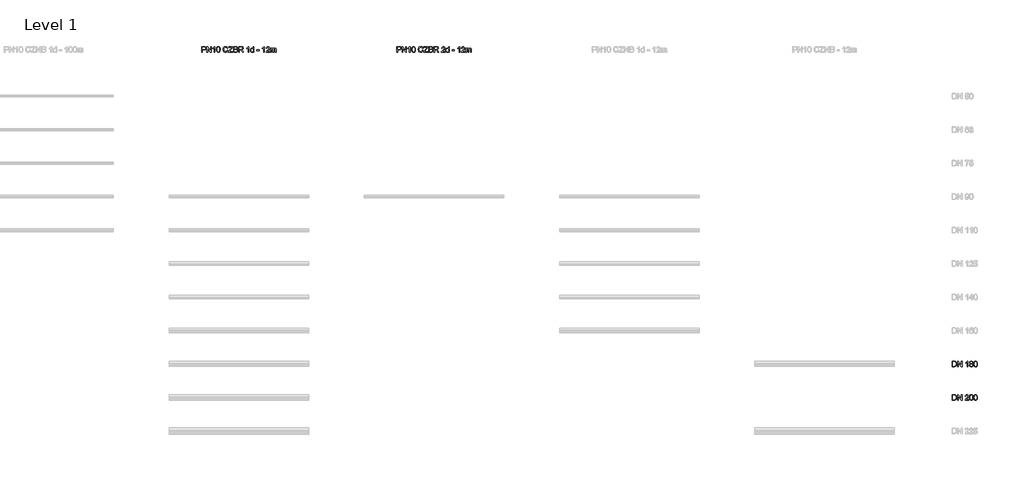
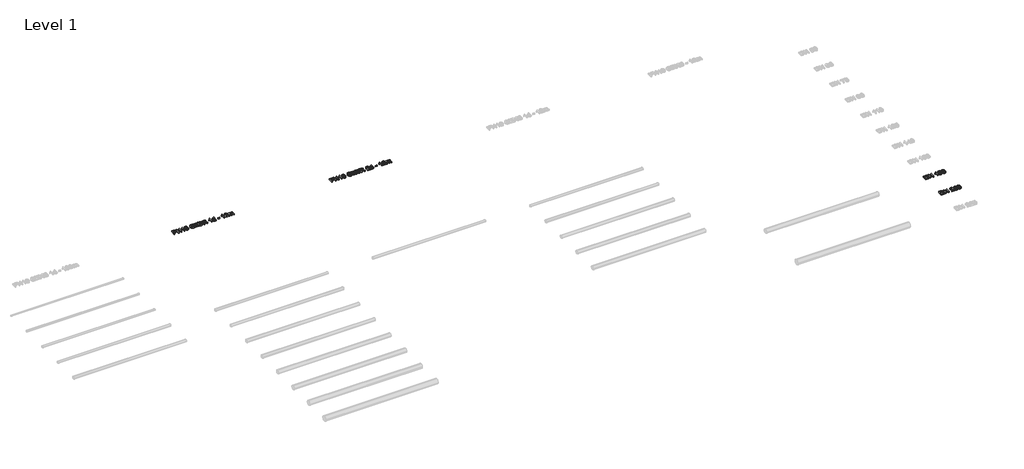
# One storey, part 7 of 13: 4 proxies.
"""IFC4 building model written with IfcOpenShell, lengths in millimetres."""

from ifc_helpers import new_model, si_unit, origin, origin_with_axes, place, context, project, spatial, polyline, outline, extrude, element, save

model = new_model("IFC4")

# Units and contexts
model_context = context("Model", 3, world=origin())
ifc_project = project(units=[si_unit("LENGTHUNIT", "METRE", prefix="MILLI")], contexts=[model_context])

# Site, building, storey
site = spatial("IfcSite", under=ifc_project)
building = spatial("IfcBuilding", under=site)
storey = spatial("IfcBuildingStorey", under=building, Name="Level 1", Elevation=0.0)

# Proxies
placement = place(None, origin())
element("IfcBuildingElementProxy", 1, Name="200mm Arial", ObjectType="200mm Arial", at=placement, inside=storey, context=model_context, shape_type="SweptSolid", body=[
    extrude(outline(polyline([(12636.2867653, -20838.0508707), (12636.2867653, -20637.1382504), (12710.7460811, -20637.1382504), (12740.7652519, -20639.0512367), (12765.1680909, -20648.4444903), (12774.0401784, -20656.7708862), (12780.9870167, -20667.8686597), (12785.4751771, -20680.9591274), (12786.9712305, -20695.2636056), (12782.9306599, -20718.9429434), (12770.8089482, -20738.673681), (12761.1014621, -20746.4421225), (12748.1412859, -20751.9910093), (12712.4628638, -20756.4301187), (12661.4008428, -20756.4301187), (12661.4008428, -20838.0508707), (12636.2867653, -20838.0508707)]), holes=[polyline([(12661.4008428, -20731.3160411), (12713.9343918, -20731.3160411), (12736.2035152, -20729.0106473), (12750.918795, -20722.0944658), (12759.1225635, -20710.9966923), (12761.857153, -20696.1465224), (12760.2446036, -20684.8648079), (12755.4069553, -20675.3489269), (12747.9450822, -20668.1874908), (12738.4598581, -20663.9691105), (12713.3457806, -20662.2523279), (12661.4008428, -20662.2523279), (12661.4008428, -20731.3160411)])]), origin_with_axes(), (0.0, 0.0, 1.0), 50.0),
    extrude(outline(polyline([(12821.5030871, -20838.0508707), (12821.5030871, -20637.1382504), (12848.3829983, -20637.1382504), (12953.3519942, -20796.3085269), (12953.3519942, -20637.1382504), (12978.4660717, -20637.1382504), (12978.4660717, -20838.0508707), (12951.5861606, -20838.0508707), (12846.6171647, -20678.8315431), (12846.6171647, -20838.0508707), (12821.5030871, -20838.0508707)])), origin_with_axes(), (0.0, 0.0, 1.0), 50.0),
    extrude(outline(polyline([(13107.1757191, -20838.0508707), (13082.0616416, -20838.0508707), (13082.0616416, -20681.4802935), (13058.2719392, -20698.4273908), (13031.8334865, -20711.1070569), (13031.8334865, -20687.3664054), (13068.6462115, -20663.8710087), (13082.1168239, -20650.2961631), (13090.9889113, -20637.1382504), (13107.1757191, -20637.1382504), (13107.1757191, -20838.0508707)])), origin_with_axes(), (0.0, 0.0, 1.0), 50.0),
    extrude(outline(polyline([(13166.8216533, -20739.2132413), (13168.6671946, -20707.0542235), (13174.2038186, -20681.4067171), (13183.3763431, -20661.8783145), (13196.1295856, -20648.0766083), (13212.5555166, -20639.8728399), (13232.7461068, -20637.1382504), (13248.2216761, -20638.7569311), (13262.0785646, -20643.6129735), (13273.6668474, -20651.516305), (13282.3365998, -20662.2768534), (13294.1088236, -20692.0017186), (13298.6705604, -20739.2132413), (13296.8434131, -20771.188318), (13291.3619714, -20796.7745108), (13282.2446293, -20816.3213075), (13269.5097809, -20830.178196), (13253.0470616, -20838.4371468), (13232.7461068, -20841.1901304), (13206.6510106, -20836.4076644), (13186.8344338, -20822.0602666), (13178.0788423, -20806.9311195), (13171.8248484, -20788.080233), (13166.8216533, -20739.2132413)]), holes=[polyline([(13191.9357308, -20739.1641904), (13194.8787868, -20778.6685853), (13203.7079547, -20801.5324513), (13216.8536046, -20812.4401524), (13232.7461068, -20816.0760528), (13248.638609, -20812.4278897), (13261.784259, -20801.4834003), (13270.6134269, -20778.6072716), (13273.5564828, -20739.1641904), (13270.7115287, -20700.5488436), (13262.1766664, -20677.507168), (13249.0555419, -20666.0660379), (13232.4518012, -20662.2523279), (13216.7309773, -20665.6123168), (13204.1003621, -20675.6922835), (13194.9768886, -20700.1686989), (13191.9357308, -20739.1641904)])]), origin_with_axes(), (0.0, 0.0, 1.0), 50.0),
    extrude(outline(polyline([(13549.8113357, -20766.6327127), (13574.9254133, -20773.1074358), (13563.3371304, -20802.3724485), (13545.1514971, -20823.7525238), (13521.2636929, -20836.8307287), (13492.5688973, -20841.1901304), (13463.4387746, -20837.8914551), (13440.3051285, -20827.9954295), (13422.5732163, -20811.8454099), (13409.6482956, -20789.7847529), (13401.7572268, -20763.8490722), (13399.1268705, -20736.0739816), (13402.1005833, -20706.778312), (13411.0217217, -20681.4802935), (13425.4243018, -20660.983135), (13444.8423398, -20646.0900456), (13467.8717527, -20637.0217544), (13493.1084575, -20633.9989907), (13520.6444249, -20637.9108025), (13543.410189, -20649.6462382), (13560.6945114, -20668.4817963), (13571.7861536, -20693.6939758), (13546.672076, -20699.6781895), (13537.9655355, -20681.3637975), (13526.0706843, -20668.8006274), (13510.8403697, -20661.534958), (13492.1274389, -20659.1130682), (13470.5572912, -20661.7986068), (13452.8376418, -20669.8552225), (13439.3915549, -20682.4367867), (13430.6420948, -20698.6971709), (13425.8412347, -20717.0790079), (13424.240948, -20736.0249307), (13426.1355403, -20759.2260218), (13431.8193171, -20779.2878533), (13441.5068763, -20795.4440043), (13455.4128158, -20806.9280539), (13472.0840015, -20813.7890531), (13490.0672997, -20816.0760528), (13511.0304421, -20812.9613186), (13528.4987055, -20803.6171159), (13541.687275, -20788.1415466), (13549.8113357, -20766.6327127)])), origin_with_axes(), (0.0, 0.0, 1.0), 50.0),
    extrude(outline(polyline([(13593.7609714, -20838.0508707), (13593.7609714, -20812.0048254), (13696.5226754, -20686.189183), (13716.0449466, -20662.2523279), (13606.3180102, -20662.2523279), (13606.3180102, -20637.1382504), (13747.5846963, -20637.1382504), (13747.5846963, -20662.2523279), (13635.1109077, -20799.938296), (13624.5159062, -20812.9367931), (13750.723956, -20812.9367931), (13750.723956, -20838.0508707), (13593.7609714, -20838.0508707)])), origin_with_axes(), (0.0, 0.0, 1.0), 50.0),
    extrude(outline(polyline([(13778.9772933, -20838.0508707), (13778.9772933, -20637.1382504), (13855.643901, -20637.1382504), (13876.7296707, -20638.6159097), (13893.19239, -20643.0488877), (13905.8107425, -20650.5475491), (13915.3634116, -20661.2222583), (13921.3782822, -20673.7792971), (13923.3832391, -20686.924947), (13921.6971133, -20699.0221333), (13916.6387358, -20710.3958183), (13908.1713186, -20720.3470263), (13896.2580733, -20728.1767814), (13910.4889752, -20735.6079977), (13921.0042689, -20746.9142377), (13927.4973861, -20761.3474747), (13929.6617585, -20778.1596818), (13923.7511211, -20805.1622203), (13909.1094177, -20824.3901859), (13887.2572272, -20834.5927799), (13855.0552899, -20838.0508707), (13778.9772933, -20838.0508707)]), holes=[polyline([(13804.0913708, -20718.7590024), (13849.9539929, -20718.7590024), (13876.7358021, -20716.6007613), (13892.8490335, -20707.3056096), (13898.2691616, -20690.9471235), (13893.2169155, -20674.564112), (13878.7468903, -20664.8765528), (13846.4713766, -20662.2523279), (13804.0913708, -20662.2523279), (13804.0913708, -20718.7590024)]), polyline([(13804.0913708, -20812.9367931), (13855.5948501, -20812.9367931), (13874.2342045, -20811.9557745), (13890.0040794, -20806.4865955), (13900.4519281, -20795.3275083), (13904.5476809, -20778.4049365), (13899.7406895, -20758.8826653), (13893.4437761, -20751.8254624), (13884.1670184, -20747.2330688), (13853.1423035, -20743.8730799), (13804.0913708, -20743.8730799), (13804.0913708, -20812.9367931)])]), origin_with_axes(), (0.0, 0.0, 1.0), 50.0),
    extrude(outline(polyline([(13964.1936151, -20838.0508707), (13964.1936151, -20637.1382504), (14050.7685113, -20637.1382504), (14074.0370475, -20638.4932824), (14090.9657506, -20642.5583784), (14103.3388484, -20650.0631711), (14112.9405685, -20661.7372931), (14119.1025919, -20676.2134496), (14121.1565997, -20692.1243459), (14117.7536912, -20711.9163972), (14107.5449659, -20728.3239342), (14090.2238553, -20740.3536755), (14065.4837911, -20747.0123396), (14079.7576125, -20757.7544938), (14100.1137496, -20783.6043354), (14133.6155366, -20838.0508707), (14104.4302317, -20838.0508707), (14078.2860845, -20796.4066288), (14059.4014754, -20768.8400046), (14046.1331982, -20755.816982), (14034.189296, -20751.0345161), (14019.621169, -20750.1515993), (13989.3076926, -20750.1515993), (13989.3076926, -20838.0508707), (13964.1936151, -20838.0508707)]), holes=[polyline([(13989.3076926, -20725.0375217), (14045.5200615, -20725.0375217), (14074.1903316, -20721.4813291), (14083.6203735, -20716.8582787), (14090.4752413, -20710.1015127), (14096.0425222, -20693.0563136), (14093.3876404, -20680.8058432), (14085.4229952, -20670.934343), (14071.7193909, -20664.4228317), (14051.8476318, -20662.2523279), (13989.3076926, -20662.2523279), (13989.3076926, -20725.0375217)])]), origin_with_axes(), (0.0, 0.0, 1.0), 50.0),
    extrude(outline(polyline([(14362.879596, -20812.9367931), (14362.879596, -20838.0508707), (14231.0306889, -20838.0508707), (14233.7284902, -20820.7358914), (14248.9833303, -20794.0767095), (14280.4249781, -20764.9649809), (14323.7860026, -20723.1245354), (14331.9161947, -20708.7035612), (14334.6262588, -20694.6749944), (14332.0694789, -20682.0995615), (14324.3991393, -20671.6455815), (14312.6085214, -20664.6006413), (14297.6909065, -20662.2523279), (14282.0252648, -20664.545459), (14269.8545022, -20671.4248523), (14262.0002216, -20682.3509476), (14259.2840262, -20696.7841845), (14234.1699486, -20693.6449248), (14240.2583956, -20669.3524504), (14253.4224397, -20651.6082755), (14272.9753677, -20640.7557566), (14298.2304667, -20637.1382504), (14323.6695067, -20641.1604268), (14343.1856465, -20653.2269563), (14355.6016639, -20671.253174), (14359.7403363, -20693.1544155), (14355.2767014, -20716.9686433), (14340.4387943, -20741.5922115), (14304.4599352, -20776.0014408), (14275.5689358, -20800.1590252), (14264.2381704, -20812.9367931), (14362.879596, -20812.9367931)])), origin_with_axes(), (0.0, 0.0, 1.0), 50.0),
    extrude(outline(polyline([(14485.310724, -20838.0508707), (14485.310724, -20814.3592702), (14477.7967342, -20826.0977715), (14468.6947205, -20834.4824153), (14458.0046829, -20839.5132016), (14445.7266213, -20841.1901304), (14429.4907626, -20838.7621092), (14414.62833, -20831.4780457), (14402.0467658, -20819.8468433), (14392.6535121, -20804.3774054), (14386.8041884, -20785.6951314), (14384.8544138, -20764.4254207), (14386.6509043, -20743.4193588), (14392.0403755, -20724.4489105), (14401.0166962, -20708.5931966), (14413.5737349, -20696.9313373), (14428.76113, -20689.7576384), (14445.6285194, -20687.3664054), (14457.9157781, -20689.0770567), (14468.7805597, -20694.2090105), (14485.310724, -20711.9899736), (14485.310724, -20637.1382504), (14510.4248015, -20637.1382504), (14510.4248015, -20838.0508707), (14485.310724, -20838.0508707)]), holes=[polyline([(14409.9684914, -20764.3273188), (14412.8011827, -20787.044032), (14421.2992568, -20803.200183), (14433.6478291, -20812.8570854), (14448.0320151, -20816.0760528), (14462.4100698, -20813.0042382), (14474.4459424, -20803.7887942), (14482.5945286, -20788.2580426), (14485.310724, -20766.2403052), (14482.5454777, -20742.16856), (14474.2497387, -20725.4789801), (14461.9072977, -20715.7301073), (14447.0019456, -20712.480483), (14432.4706068, -20715.6013486), (14420.5634928, -20724.9639453), (14412.6172417, -20741.0465199), (14409.9684914, -20764.3273188)])]), origin_with_axes(), (0.0, 0.0, 1.0), 50.0),
    extrude(outline(polyline([(14614.0203714, -20778.4049365), (14614.0203714, -20753.290859), (14692.5018637, -20753.290859), (14692.5018637, -20778.4049365), (14614.0203714, -20778.4049365)])), origin_with_axes(), (0.0, 0.0, 1.0), 50.0),
    extrude(outline(polyline([(14887.1359646, -20838.0508707), (14862.0218871, -20838.0508707), (14862.0218871, -20681.4802935), (14838.2321847, -20698.4273908), (14811.793732, -20711.1070569), (14811.793732, -20687.3664054), (14848.606457, -20663.8710087), (14862.0770694, -20650.2961631), (14870.9491568, -20637.1382504), (14887.1359646, -20637.1382504), (14887.1359646, -20838.0508707)])), origin_with_axes(), (0.0, 0.0, 1.0), 50.0),
    extrude(outline(polyline([(15075.4915461, -20812.9367931), (15075.4915461, -20838.0508707), (14943.6426391, -20838.0508707), (14946.3404403, -20820.7358914), (14961.5952804, -20794.0767095), (14993.0369283, -20764.9649809), (15036.3979528, -20723.1245354), (15044.5281449, -20708.7035612), (15047.2382089, -20694.6749944), (15044.681429, -20682.0995615), (15037.0110894, -20671.6455815), (15025.2204715, -20664.6006413), (15010.3028566, -20662.2523279), (14994.6372149, -20664.545459), (14982.4664523, -20671.4248523), (14974.6121717, -20682.3509476), (14971.8959763, -20696.7841845), (14946.7818987, -20693.6449248), (14952.8703458, -20669.3524504), (14966.0343898, -20651.6082755), (14985.5873179, -20640.7557566), (15010.8424168, -20637.1382504), (15036.2814568, -20641.1604268), (15055.7975966, -20653.2269563), (15068.213614, -20671.253174), (15072.3522864, -20693.1544155), (15067.8886516, -20716.9686433), (15053.0507444, -20741.5922115), (15017.0718853, -20776.0014408), (14988.1808859, -20800.1590252), (14976.8501205, -20812.9367931), (15075.4915461, -20812.9367931)])), origin_with_axes(), (0.0, 0.0, 1.0), 50.0),
    extrude(outline(polyline([(15106.884143, -20838.0508707), (15106.884143, -20690.5056651), (15131.9982206, -20690.5056651), (15131.9982206, -20714.7858768), (15139.5520642, -20703.632921), (15149.2641489, -20694.8957236), (15160.8033808, -20689.248735), (15173.8386662, -20687.3664054), (15187.8059192, -20689.2855232), (15199.0017946, -20695.0428764), (15207.3649787, -20704.2583204), (15212.8341577, -20716.5517104), (15221.988288, -20703.7831395), (15232.4300053, -20694.6627317), (15244.1593095, -20689.190487), (15257.1762008, -20687.3664054), (15276.0546785, -20690.4014319), (15290.0158002, -20699.5065113), (15298.642633, -20714.9268982), (15301.518244, -20736.9078475), (15301.518244, -20838.0508707), (15276.4041664, -20838.0508707), (15276.4041664, -20747.6990526), (15274.0742471, -20726.7297789), (15265.6374867, -20716.4045576), (15251.2900889, -20712.480483), (15237.6845864, -20714.9943433), (15226.5929443, -20722.5359242), (15219.2169103, -20735.6202605), (15216.7582323, -20754.762387), (15216.7582323, -20838.0508707), (15191.6441547, -20838.0508707), (15191.6441547, -20744.9031495), (15190.1910209, -20730.7029045), (15185.8316192, -20720.5738869), (15178.1612796, -20714.5038339), (15166.7753319, -20712.480483), (15148.1850284, -20717.8760856), (15140.8273885, -20724.5224869), (15135.8241933, -20733.6704859), (15131.9982206, -20763.6406058), (15131.9982206, -20838.0508707), (15106.884143, -20838.0508707)])), origin_with_axes(), (0.0, 0.0, 1.0), 50.0),
])
element("IfcBuildingElementProxy", 2, Name="200mm Arial", ObjectType="200mm Arial", at=placement, inside=storey, context=model_context, shape_type="SweptSolid", body=[
    extrude(outline(polyline([(32539.3076926, -33313.949573), (32539.3076926, -33113.0369527), (32608.6166605, -33113.0369527), (32644.4728923, -33115.9309577), (32660.4880218, -33121.5105013), (32674.0015538, -33130.302881), (32687.8952305, -33145.606772), (32697.7912562, -33164.6385338), (32703.7141563, -33187.0302846), (32705.6884563, -33212.4141423), (32700.3419047, -33252.9547382), (32686.6076435, -33282.2136195), (32668.2625947, -33300.436041), (32644.2521631, -33310.5160077), (32611.9521239, -33313.949573), (32539.3076926, -33313.949573)]), holes=[polyline([(32564.4217702, -33288.8354954), (32608.8619152, -33288.8354954), (32641.1864798, -33285.2057264), (32659.8258342, -33274.9540815), (32668.5507689, -33264.0831685), (32675.1051998, -33250.0116822), (32679.207084, -33232.6783089), (32680.5743788, -33212.0217348), (32677.8949716, -33184.6513144), (32669.85675, -33164.4423301), (32657.9802929, -33150.5609162), (32643.7861793, -33142.1732067), (32608.1752021, -33138.1510302), (32564.4217702, -33138.1510302), (32564.4217702, -33288.8354954)])]), origin_with_axes(), (0.0, 0.0, 1.0), 50.0),
    extrude(outline(polyline([(32740.2203129, -33313.949573), (32740.2203129, -33113.0369527), (32767.100224, -33113.0369527), (32872.06922, -33272.2072292), (32872.06922, -33113.0369527), (32897.1832975, -33113.0369527), (32897.1832975, -33313.949573), (32870.3033864, -33313.949573), (32765.3343905, -33154.7302454), (32765.3343905, -33313.949573), (32740.2203129, -33313.949573)])), origin_with_axes(), (0.0, 0.0, 1.0), 50.0),
    extrude(outline(polyline([(33138.9062938, -33288.8354954), (33138.9062938, -33313.949573), (33007.0573868, -33313.949573), (33009.7551881, -33296.6345937), (33025.0100281, -33269.9754118), (33056.451676, -33240.8636832), (33099.8127005, -33199.0232377), (33107.9428926, -33184.6022634), (33110.6529566, -33170.5736967), (33108.0961767, -33157.9982638), (33100.4258371, -33147.5442838), (33088.6352192, -33140.4993436), (33073.7176043, -33138.1510302), (33058.0519627, -33140.4441613), (33045.8812, -33147.3235546), (33038.0269194, -33158.2496499), (33035.310724, -33172.6828868), (33010.1966465, -33169.5436271), (33016.2850935, -33145.2511527), (33029.4491375, -33127.5069778), (33049.0020656, -33116.6544589), (33074.2571645, -33113.0369527), (33099.6962045, -33117.0591291), (33119.2123444, -33129.1256586), (33131.6283617, -33147.1518763), (33135.7670341, -33169.0531178), (33131.3033993, -33192.8673456), (33116.4654921, -33217.4909138), (33080.486633, -33251.9001431), (33051.5956336, -33276.0577275), (33040.2648682, -33288.8354954), (33138.9062938, -33288.8354954)])), origin_with_axes(), (0.0, 0.0, 1.0), 50.0),
    extrude(outline(polyline([(33164.0203714, -33215.1119436), (33165.8659127, -33182.9529258), (33171.4025367, -33157.3054194), (33180.5750612, -33137.7770168), (33193.3283037, -33123.9753106), (33209.7542347, -33115.7715422), (33229.9448249, -33113.0369527), (33245.4203942, -33114.6556334), (33259.2772827, -33119.5116758), (33270.8655655, -33127.4150073), (33279.5353179, -33138.1755557), (33291.3075417, -33167.9004209), (33295.8692784, -33215.1119436), (33294.0421312, -33247.0870203), (33288.5606895, -33272.6732131), (33279.4433474, -33292.2200098), (33266.708499, -33306.0768983), (33250.2457797, -33314.335849), (33229.9448249, -33317.0888326), (33203.8497287, -33312.3063667), (33184.0331519, -33297.9589689), (33175.2775604, -33282.8298218), (33169.0235665, -33263.9789353), (33164.0203714, -33215.1119436)]), holes=[polyline([(33189.1344489, -33215.0628927), (33192.0775049, -33254.5672876), (33200.9066728, -33277.4311536), (33214.0523227, -33288.3388547), (33229.9448249, -33291.9747551), (33245.8373271, -33288.326592), (33258.9829771, -33277.3821026), (33267.8121449, -33254.5059739), (33270.7552009, -33215.0628927), (33267.9102468, -33176.4475459), (33259.3753845, -33153.4058703), (33246.25426, -33141.9647402), (33229.6505193, -33138.1510302), (33213.9296954, -33141.5110191), (33201.2990802, -33151.5909857), (33192.1756067, -33176.0674012), (33189.1344489, -33215.0628927)])]), origin_with_axes(), (0.0, 0.0, 1.0), 50.0),
    extrude(outline(polyline([(33317.8440963, -33215.1119436), (33319.6896376, -33182.9529258), (33325.2262617, -33157.3054194), (33334.3987861, -33137.7770168), (33347.1520286, -33123.9753106), (33363.5779597, -33115.7715422), (33383.7685498, -33113.0369527), (33399.2441191, -33114.6556334), (33413.1010076, -33119.5116758), (33424.6892904, -33127.4150073), (33433.3590428, -33138.1755557), (33445.1312666, -33167.9004209), (33449.6930034, -33215.1119436), (33447.8658561, -33247.0870203), (33442.3844144, -33272.6732131), (33433.2670723, -33292.2200098), (33420.5322239, -33306.0768983), (33404.0695046, -33314.335849), (33383.7685498, -33317.0888326), (33357.6734536, -33312.3063667), (33337.8568768, -33297.9589689), (33329.1012853, -33282.8298218), (33322.8472914, -33263.9789353), (33317.8440963, -33215.1119436)]), holes=[polyline([(33342.9581738, -33215.0628927), (33345.9012298, -33254.5672876), (33354.7303977, -33277.4311536), (33367.8760476, -33288.3388547), (33383.7685498, -33291.9747551), (33399.661052, -33288.326592), (33412.806702, -33277.3821026), (33421.6358699, -33254.5059739), (33424.5789258, -33215.0628927), (33421.7339717, -33176.4475459), (33413.1991094, -33153.4058703), (33400.0779849, -33141.9647402), (33383.4742442, -33138.1510302), (33367.7534203, -33141.5110191), (33355.1228051, -33151.5909857), (33345.9993317, -33176.0674012), (33342.9581738, -33215.0628927)])]), origin_with_axes(), (0.0, 0.0, 1.0), 50.0),
])
element("IfcBuildingElementProxy", 3, Name="200mm Arial", ObjectType="200mm Arial", at=placement, inside=storey, context=model_context, shape_type="SweptSolid", body=[
    extrude(outline(polyline([(32539.3076926, -32113.949573), (32539.3076926, -31913.0369527), (32608.6166605, -31913.0369527), (32644.4728923, -31915.9309577), (32660.4880218, -31921.5105013), (32674.0015538, -31930.302881), (32687.8952305, -31945.606772), (32697.7912562, -31964.6385338), (32703.7141563, -31987.0302846), (32705.6884563, -32012.4141423), (32700.3419047, -32052.9547382), (32686.6076435, -32082.2136195), (32668.2625947, -32100.436041), (32644.2521631, -32110.5160077), (32611.9521239, -32113.949573), (32539.3076926, -32113.949573)]), holes=[polyline([(32564.4217702, -32088.8354954), (32608.8619152, -32088.8354954), (32641.1864798, -32085.2057264), (32659.8258342, -32074.9540815), (32668.5507689, -32064.0831685), (32675.1051998, -32050.0116822), (32679.207084, -32032.6783089), (32680.5743788, -32012.0217348), (32677.8949716, -31984.6513144), (32669.85675, -31964.4423301), (32657.9802929, -31950.5609162), (32643.7861793, -31942.1732067), (32608.1752021, -31938.1510302), (32564.4217702, -31938.1510302), (32564.4217702, -32088.8354954)])]), origin_with_axes(), (0.0, 0.0, 1.0), 50.0),
    extrude(outline(polyline([(32740.2203129, -32113.949573), (32740.2203129, -31913.0369527), (32767.100224, -31913.0369527), (32872.06922, -32072.2072292), (32872.06922, -31913.0369527), (32897.1832975, -31913.0369527), (32897.1832975, -32113.949573), (32870.3033864, -32113.949573), (32765.3343905, -31954.7302454), (32765.3343905, -32113.949573), (32740.2203129, -32113.949573)])), origin_with_axes(), (0.0, 0.0, 1.0), 50.0),
    extrude(outline(polyline([(33104.3744372, -32113.949573), (33079.2603597, -32113.949573), (33079.2603597, -31957.3789958), (33055.4706573, -31974.3260931), (33029.0322046, -31987.0057592), (33029.0322046, -31963.2651077), (33065.8449296, -31939.769711), (33079.315542, -31926.1948653), (33088.1876294, -31913.0369527), (33104.3744372, -31913.0369527), (33104.3744372, -32113.949573)])), origin_with_axes(), (0.0, 0.0, 1.0), 50.0),
    extrude(outline(polyline([(33200.6123672, -32003.2906688), (33187.1662802, -31996.6687929), (33177.7301071, -31987.6924722), (33172.1566948, -31976.5456478), (33170.2988908, -31963.4122605), (33174.3455927, -31943.7796247), (33186.4856985, -31927.5560287), (33205.3580449, -31916.6667217), (33229.6014684, -31913.0369527), (33253.9920447, -31916.7525608), (33273.1096457, -31927.8993853), (33285.4704807, -31944.3804986), (33289.5907591, -31964.0989736), (33287.7574804, -31976.8092965), (33282.2576446, -31987.7660486), (33273.0299379, -31996.687187), (33260.0130466, -32003.2906688), (33275.4702218, -32011.255314), (33286.7212795, -32022.9846183), (33293.5822787, -32037.9144959), (33295.8692784, -32055.4808612), (33291.3320672, -32079.4912927), (33277.7204333, -32099.332395), (33256.7021087, -32112.6497232), (33229.9448249, -32117.0888326), (33203.1875411, -32112.6313291), (33182.1692165, -32099.2588186), (33168.5575826, -32079.227644), (33164.0203714, -32054.7941481), (33166.3993416, -32036.5472012), (33173.5362523, -32021.5376158), (33185.0632215, -32010.2804267), (33200.6123672, -32003.2906688)]), holes=[polyline([(33195.4129683, -31964.1480245), (33197.6386544, -31975.110908), (33204.3157126, -31983.8664995), (33215.2479392, -31989.6054586), (33230.2391305, -31991.518445), (33244.8808339, -31989.6177213), (33255.6475136, -31983.9155504), (33262.2693896, -31975.4542645), (33264.4766815, -31965.276196), (33262.1958132, -31954.7118513), (33255.353208, -31945.974654), (33244.4393755, -31940.1069361), (33229.9448249, -31938.1510302), (33215.3583038, -31940.0640166), (33204.4628654, -31945.8029757), (33197.6754426, -31954.2152106), (33195.4129683, -31964.1480245)]), polyline([(33189.1344489, -32053.9112313), (33193.3283037, -32072.8203659), (33199.1347078, -32080.9321639), (33208.1662108, -32086.97156), (33230.1410286, -32091.9747551), (33247.2352787, -32089.3443988), (33260.0620976, -32081.45333), (33268.0819251, -32069.5032966), (33270.7552009, -32054.6960463), (33267.9960859, -32039.6374099), (33259.7187411, -32027.4237277), (33246.5976166, -32019.3303238), (33229.3071628, -32016.6325225), (33212.452036, -32019.2935356), (33199.7539758, -32027.2765749), (33191.7893306, -32039.2572652), (33189.1344489, -32053.9112313)])]), origin_with_axes(), (0.0, 0.0, 1.0), 50.0),
    extrude(outline(polyline([(33317.8440963, -32015.1119436), (33319.6896376, -31982.9529258), (33325.2262617, -31957.3054194), (33334.3987861, -31937.7770168), (33347.1520286, -31923.9753106), (33363.5779597, -31915.7715422), (33383.7685498, -31913.0369527), (33399.2441191, -31914.6556334), (33413.1010076, -31919.5116758), (33424.6892904, -31927.4150073), (33433.3590428, -31938.1755557), (33445.1312666, -31967.9004209), (33449.6930034, -32015.1119436), (33447.8658561, -32047.0870203), (33442.3844144, -32072.6732131), (33433.2670723, -32092.2200098), (33420.5322239, -32106.0768983), (33404.0695046, -32114.335849), (33383.7685498, -32117.0888326), (33357.6734536, -32112.3063667), (33337.8568768, -32097.9589689), (33329.1012853, -32082.8298218), (33322.8472914, -32063.9789353), (33317.8440963, -32015.1119436)]), holes=[polyline([(33342.9581738, -32015.0628927), (33345.9012298, -32054.5672876), (33354.7303977, -32077.4311536), (33367.8760476, -32088.3388547), (33383.7685498, -32091.9747551), (33399.661052, -32088.326592), (33412.806702, -32077.3821026), (33421.6358699, -32054.5059739), (33424.5789258, -32015.0628927), (33421.7339717, -31976.4475459), (33413.1991094, -31953.4058703), (33400.0779849, -31941.9647402), (33383.4742442, -31938.1510302), (33367.7534203, -31941.5110191), (33355.1228051, -31951.5909857), (33345.9993317, -31976.0674012), (33342.9581738, -32015.0628927)])]), origin_with_axes(), (0.0, 0.0, 1.0), 50.0),
])
element("IfcBuildingElementProxy", 4, Name="200mm Arial", ObjectType="200mm Arial", at=placement, inside=storey, context=model_context, shape_type="SweptSolid", body=[
    extrude(outline(polyline([(5636.2867653, -20838.0508707), (5636.2867653, -20637.1382504), (5710.7460811, -20637.1382504), (5740.7652519, -20639.0512367), (5765.1680909, -20648.4444903), (5774.0401784, -20656.7708862), (5780.9870167, -20667.8686597), (5785.4751771, -20680.9591274), (5786.9712305, -20695.2636056), (5782.9306599, -20718.9429434), (5770.8089482, -20738.673681), (5761.1014621, -20746.4421225), (5748.1412859, -20751.9910093), (5712.4628638, -20756.4301187), (5661.4008428, -20756.4301187), (5661.4008428, -20838.0508707), (5636.2867653, -20838.0508707)]), holes=[polyline([(5661.4008428, -20731.3160411), (5713.9343918, -20731.3160411), (5736.2035152, -20729.0106473), (5750.918795, -20722.0944658), (5759.1225635, -20710.9966923), (5761.857153, -20696.1465224), (5760.2446036, -20684.8648079), (5755.4069553, -20675.3489269), (5747.9450822, -20668.1874908), (5738.4598581, -20663.9691105), (5713.3457806, -20662.2523279), (5661.4008428, -20662.2523279), (5661.4008428, -20731.3160411)])]), origin_with_axes(), (0.0, 0.0, 1.0), 50.0),
    extrude(outline(polyline([(5821.5030871, -20838.0508707), (5821.5030871, -20637.1382504), (5848.3829983, -20637.1382504), (5953.3519942, -20796.3085269), (5953.3519942, -20637.1382504), (5978.4660717, -20637.1382504), (5978.4660717, -20838.0508707), (5951.5861606, -20838.0508707), (5846.6171647, -20678.8315431), (5846.6171647, -20838.0508707), (5821.5030871, -20838.0508707)])), origin_with_axes(), (0.0, 0.0, 1.0), 50.0),
    extrude(outline(polyline([(6107.1757191, -20838.0508707), (6082.0616416, -20838.0508707), (6082.0616416, -20681.4802935), (6058.2719392, -20698.4273908), (6031.8334865, -20711.1070569), (6031.8334865, -20687.3664054), (6068.6462115, -20663.8710087), (6082.1168239, -20650.2961631), (6090.9889113, -20637.1382504), (6107.1757191, -20637.1382504), (6107.1757191, -20838.0508707)])), origin_with_axes(), (0.0, 0.0, 1.0), 50.0),
    extrude(outline(polyline([(6166.8216533, -20739.2132413), (6168.6671946, -20707.0542235), (6174.2038186, -20681.4067171), (6183.3763431, -20661.8783145), (6196.1295856, -20648.0766083), (6212.5555166, -20639.8728399), (6232.7461068, -20637.1382504), (6248.2216761, -20638.7569311), (6262.0785646, -20643.6129735), (6273.6668474, -20651.516305), (6282.3365998, -20662.2768534), (6294.1088236, -20692.0017186), (6298.6705604, -20739.2132413), (6296.8434131, -20771.188318), (6291.3619714, -20796.7745108), (6282.2446293, -20816.3213075), (6269.5097809, -20830.178196), (6253.0470616, -20838.4371468), (6232.7461068, -20841.1901304), (6206.6510106, -20836.4076644), (6186.8344338, -20822.0602666), (6178.0788423, -20806.9311195), (6171.8248484, -20788.080233), (6166.8216533, -20739.2132413)]), holes=[polyline([(6191.9357308, -20739.1641904), (6194.8787868, -20778.6685853), (6203.7079547, -20801.5324513), (6216.8536046, -20812.4401524), (6232.7461068, -20816.0760528), (6248.638609, -20812.4278897), (6261.784259, -20801.4834003), (6270.6134269, -20778.6072716), (6273.5564828, -20739.1641904), (6270.7115287, -20700.5488436), (6262.1766664, -20677.507168), (6249.0555419, -20666.0660379), (6232.4518012, -20662.2523279), (6216.7309773, -20665.6123168), (6204.1003621, -20675.6922835), (6194.9768886, -20700.1686989), (6191.9357308, -20739.1641904)])]), origin_with_axes(), (0.0, 0.0, 1.0), 50.0),
    extrude(outline(polyline([(6549.8113357, -20766.6327127), (6574.9254133, -20773.1074358), (6563.3371304, -20802.3724485), (6545.1514971, -20823.7525238), (6521.2636929, -20836.8307287), (6492.5688973, -20841.1901304), (6463.4387746, -20837.8914551), (6440.3051285, -20827.9954295), (6422.5732163, -20811.8454099), (6409.6482956, -20789.7847529), (6401.7572268, -20763.8490722), (6399.1268705, -20736.0739816), (6402.1005833, -20706.778312), (6411.0217217, -20681.4802935), (6425.4243018, -20660.983135), (6444.8423398, -20646.0900456), (6467.8717527, -20637.0217544), (6493.1084575, -20633.9989907), (6520.6444249, -20637.9108025), (6543.410189, -20649.6462382), (6560.6945114, -20668.4817963), (6571.7861536, -20693.6939758), (6546.672076, -20699.6781895), (6537.9655355, -20681.3637975), (6526.0706843, -20668.8006274), (6510.8403697, -20661.534958), (6492.1274389, -20659.1130682), (6470.5572912, -20661.7986068), (6452.8376418, -20669.8552225), (6439.3915549, -20682.4367867), (6430.6420948, -20698.6971709), (6425.8412347, -20717.0790079), (6424.240948, -20736.0249307), (6426.1355403, -20759.2260218), (6431.8193171, -20779.2878533), (6441.5068763, -20795.4440043), (6455.4128158, -20806.9280539), (6472.0840015, -20813.7890531), (6490.0672997, -20816.0760528), (6511.0304421, -20812.9613186), (6528.4987055, -20803.6171159), (6541.687275, -20788.1415466), (6549.8113357, -20766.6327127)])), origin_with_axes(), (0.0, 0.0, 1.0), 50.0),
    extrude(outline(polyline([(6593.7609714, -20838.0508707), (6593.7609714, -20812.0048254), (6696.5226754, -20686.189183), (6716.0449466, -20662.2523279), (6606.3180102, -20662.2523279), (6606.3180102, -20637.1382504), (6747.5846963, -20637.1382504), (6747.5846963, -20662.2523279), (6635.1109077, -20799.938296), (6624.5159062, -20812.9367931), (6750.723956, -20812.9367931), (6750.723956, -20838.0508707), (6593.7609714, -20838.0508707)])), origin_with_axes(), (0.0, 0.0, 1.0), 50.0),
    extrude(outline(polyline([(6778.9772933, -20838.0508707), (6778.9772933, -20637.1382504), (6855.643901, -20637.1382504), (6876.7296707, -20638.6159097), (6893.19239, -20643.0488877), (6905.8107425, -20650.5475491), (6915.3634116, -20661.2222583), (6921.3782822, -20673.7792971), (6923.3832391, -20686.924947), (6921.6971133, -20699.0221333), (6916.6387358, -20710.3958183), (6908.1713186, -20720.3470263), (6896.2580733, -20728.1767814), (6910.4889752, -20735.6079977), (6921.0042689, -20746.9142377), (6927.4973861, -20761.3474747), (6929.6617585, -20778.1596818), (6923.7511211, -20805.1622203), (6909.1094177, -20824.3901859), (6887.2572272, -20834.5927799), (6855.0552899, -20838.0508707), (6778.9772933, -20838.0508707)]), holes=[polyline([(6804.0913708, -20718.7590024), (6849.9539929, -20718.7590024), (6876.7358021, -20716.6007613), (6892.8490335, -20707.3056096), (6898.2691616, -20690.9471235), (6893.2169155, -20674.564112), (6878.7468903, -20664.8765528), (6846.4713766, -20662.2523279), (6804.0913708, -20662.2523279), (6804.0913708, -20718.7590024)]), polyline([(6804.0913708, -20812.9367931), (6855.5948501, -20812.9367931), (6874.2342045, -20811.9557745), (6890.0040794, -20806.4865955), (6900.4519281, -20795.3275083), (6904.5476809, -20778.4049365), (6899.7406895, -20758.8826653), (6893.4437761, -20751.8254624), (6884.1670184, -20747.2330688), (6853.1423035, -20743.8730799), (6804.0913708, -20743.8730799), (6804.0913708, -20812.9367931)])]), origin_with_axes(), (0.0, 0.0, 1.0), 50.0),
    extrude(outline(polyline([(6964.1936151, -20838.0508707), (6964.1936151, -20637.1382504), (7050.7685113, -20637.1382504), (7074.0370475, -20638.4932824), (7090.9657506, -20642.5583784), (7103.3388484, -20650.0631711), (7112.9405685, -20661.7372931), (7119.1025919, -20676.2134496), (7121.1565997, -20692.1243459), (7117.7536912, -20711.9163972), (7107.5449659, -20728.3239342), (7090.2238553, -20740.3536755), (7065.4837911, -20747.0123396), (7079.7576125, -20757.7544938), (7100.1137496, -20783.6043354), (7133.6155366, -20838.0508707), (7104.4302317, -20838.0508707), (7078.2860845, -20796.4066288), (7059.4014754, -20768.8400046), (7046.1331982, -20755.816982), (7034.189296, -20751.0345161), (7019.621169, -20750.1515993), (6989.3076926, -20750.1515993), (6989.3076926, -20838.0508707), (6964.1936151, -20838.0508707)]), holes=[polyline([(6989.3076926, -20725.0375217), (7045.5200615, -20725.0375217), (7074.1903316, -20721.4813291), (7083.6203735, -20716.8582787), (7090.4752413, -20710.1015127), (7096.0425222, -20693.0563136), (7093.3876404, -20680.8058432), (7085.4229952, -20670.934343), (7071.7193909, -20664.4228317), (7051.8476318, -20662.2523279), (6989.3076926, -20662.2523279), (6989.3076926, -20725.0375217)])]), origin_with_axes(), (0.0, 0.0, 1.0), 50.0),
    extrude(outline(polyline([(7328.3477394, -20838.0508707), (7303.2336618, -20838.0508707), (7303.2336618, -20681.4802935), (7279.4439595, -20698.4273908), (7253.0055068, -20711.1070569), (7253.0055068, -20687.3664054), (7289.8182318, -20663.8710087), (7303.2888441, -20650.2961631), (7312.1609316, -20637.1382504), (7328.3477394, -20637.1382504), (7328.3477394, -20838.0508707)])), origin_with_axes(), (0.0, 0.0, 1.0), 50.0),
    extrude(outline(polyline([(7485.310724, -20838.0508707), (7485.310724, -20814.3592702), (7477.7967342, -20826.0977715), (7468.6947205, -20834.4824153), (7458.0046829, -20839.5132016), (7445.7266213, -20841.1901304), (7429.4907626, -20838.7621092), (7414.62833, -20831.4780457), (7402.0467658, -20819.8468433), (7392.6535121, -20804.3774054), (7386.8041884, -20785.6951314), (7384.8544138, -20764.4254207), (7386.6509043, -20743.4193588), (7392.0403755, -20724.4489105), (7401.0166962, -20708.5931966), (7413.5737349, -20696.9313373), (7428.76113, -20689.7576384), (7445.6285194, -20687.3664054), (7457.9157781, -20689.0770567), (7468.7805597, -20694.2090105), (7485.310724, -20711.9899736), (7485.310724, -20637.1382504), (7510.4248015, -20637.1382504), (7510.4248015, -20838.0508707), (7485.310724, -20838.0508707)]), holes=[polyline([(7409.9684914, -20764.3273188), (7412.8011827, -20787.044032), (7421.2992568, -20803.200183), (7433.6478291, -20812.8570854), (7448.0320151, -20816.0760528), (7462.4100698, -20813.0042382), (7474.4459424, -20803.7887942), (7482.5945286, -20788.2580426), (7485.310724, -20766.2403052), (7482.5454777, -20742.16856), (7474.2497387, -20725.4789801), (7461.9072977, -20715.7301073), (7447.0019456, -20712.480483), (7432.4706068, -20715.6013486), (7420.5634928, -20724.9639453), (7412.6172417, -20741.0465199), (7409.9684914, -20764.3273188)])]), origin_with_axes(), (0.0, 0.0, 1.0), 50.0),
    extrude(outline(polyline([(7614.0203714, -20778.4049365), (7614.0203714, -20753.290859), (7692.5018637, -20753.290859), (7692.5018637, -20778.4049365), (7614.0203714, -20778.4049365)])), origin_with_axes(), (0.0, 0.0, 1.0), 50.0),
    extrude(outline(polyline([(7887.1359646, -20838.0508707), (7862.0218871, -20838.0508707), (7862.0218871, -20681.4802935), (7838.2321847, -20698.4273908), (7811.793732, -20711.1070569), (7811.793732, -20687.3664054), (7848.606457, -20663.8710087), (7862.0770694, -20650.2961631), (7870.9491568, -20637.1382504), (7887.1359646, -20637.1382504), (7887.1359646, -20838.0508707)])), origin_with_axes(), (0.0, 0.0, 1.0), 50.0),
    extrude(outline(polyline([(8075.4915461, -20812.9367931), (8075.4915461, -20838.0508707), (7943.6426391, -20838.0508707), (7946.3404403, -20820.7358914), (7961.5952804, -20794.0767095), (7993.0369283, -20764.9649809), (8036.3979528, -20723.1245354), (8044.5281449, -20708.7035612), (8047.2382089, -20694.6749944), (8044.681429, -20682.0995615), (8037.0110894, -20671.6455815), (8025.2204715, -20664.6006413), (8010.3028566, -20662.2523279), (7994.6372149, -20664.545459), (7982.4664523, -20671.4248523), (7974.6121717, -20682.3509476), (7971.8959763, -20696.7841845), (7946.7818987, -20693.6449248), (7952.8703458, -20669.3524504), (7966.0343898, -20651.6082755), (7985.5873179, -20640.7557566), (8010.8424168, -20637.1382504), (8036.2814568, -20641.1604268), (8055.7975966, -20653.2269563), (8068.213614, -20671.253174), (8072.3522864, -20693.1544155), (8067.8886516, -20716.9686433), (8053.0507444, -20741.5922115), (8017.0718853, -20776.0014408), (7988.1808859, -20800.1590252), (7976.8501205, -20812.9367931), (8075.4915461, -20812.9367931)])), origin_with_axes(), (0.0, 0.0, 1.0), 50.0),
    extrude(outline(polyline([(8106.884143, -20838.0508707), (8106.884143, -20690.5056651), (8131.9982206, -20690.5056651), (8131.9982206, -20714.7858768), (8139.5520642, -20703.632921), (8149.2641489, -20694.8957236), (8160.8033808, -20689.248735), (8173.8386662, -20687.3664054), (8187.8059192, -20689.2855232), (8199.0017946, -20695.0428764), (8207.3649787, -20704.2583204), (8212.8341577, -20716.5517104), (8221.988288, -20703.7831395), (8232.4300053, -20694.6627317), (8244.1593095, -20689.190487), (8257.1762008, -20687.3664054), (8276.0546785, -20690.4014319), (8290.0158002, -20699.5065113), (8298.642633, -20714.9268982), (8301.518244, -20736.9078475), (8301.518244, -20838.0508707), (8276.4041664, -20838.0508707), (8276.4041664, -20747.6990526), (8274.0742471, -20726.7297789), (8265.6374867, -20716.4045576), (8251.2900889, -20712.480483), (8237.6845864, -20714.9943433), (8226.5929443, -20722.5359242), (8219.2169103, -20735.6202605), (8216.7582323, -20754.762387), (8216.7582323, -20838.0508707), (8191.6441547, -20838.0508707), (8191.6441547, -20744.9031495), (8190.1910209, -20730.7029045), (8185.8316192, -20720.5738869), (8178.1612796, -20714.5038339), (8166.7753319, -20712.480483), (8148.1850284, -20717.8760856), (8140.8273885, -20724.5224869), (8135.8241933, -20733.6704859), (8131.9982206, -20763.6406058), (8131.9982206, -20838.0508707), (8106.884143, -20838.0508707)])), origin_with_axes(), (0.0, 0.0, 1.0), 50.0),
])

save(model, "model.ifc")
